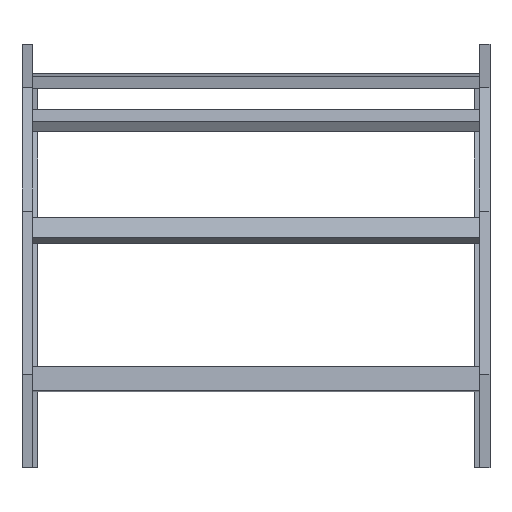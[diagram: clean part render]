
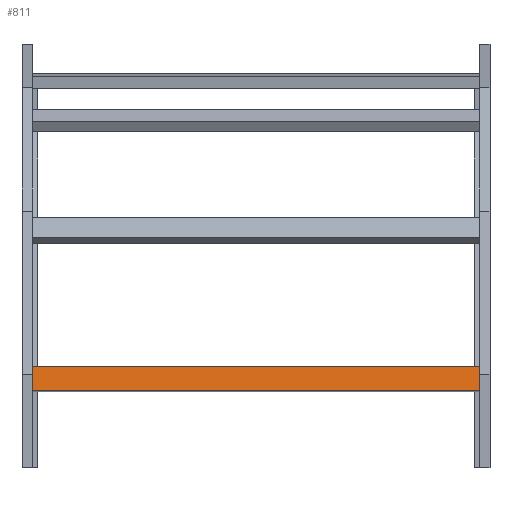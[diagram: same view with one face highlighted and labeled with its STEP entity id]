
A CAD part, top view. The second image highlights one B-rep face of the part: STEP entity #811.
In plain terms, the highlighted planar face has unit normal (0, 0.131, 0.991) as drawn and (0, 1, 0) by its records, which use the part's own axes.
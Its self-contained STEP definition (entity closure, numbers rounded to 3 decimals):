
#33 = CARTESIAN_POINT ( 'NONE',  ( 398., 20., 20.25 ) ) ;
#164 = ORIENTED_EDGE ( 'NONE', *, *, #1043, .T. ) ;
#193 = LINE ( 'NONE', #750, #1224 ) ;
#219 = FACE_OUTER_BOUND ( 'NONE', #696, .T. ) ;
#230 = CARTESIAN_POINT ( 'NONE',  ( 398., 20., 20.25 ) ) ;
#257 = CARTESIAN_POINT ( 'NONE',  ( -398., 20., -20.25 ) ) ;
#304 = EDGE_CURVE ( 'NONE', #1301, #1883, #193, .T. ) ;
#419 = LINE ( 'NONE', #1311, #884 ) ;
#509 = EDGE_CURVE ( 'NONE', #831, #1883, #419, .T. ) ;
#555 = VECTOR ( 'NONE', #1496, 1000. ) ;
#606 = CARTESIAN_POINT ( 'NONE',  ( -398., 20., 20.25 ) ) ;
#689 = CARTESIAN_POINT ( 'NONE',  ( 398., 20., 20.25 ) ) ;
#696 = EDGE_LOOP ( 'NONE', ( #1816, #1316, #1408, #164 ) ) ;
#750 = CARTESIAN_POINT ( 'NONE',  ( -398., 20., 20.25 ) ) ;
#781 = CARTESIAN_POINT ( 'NONE',  ( 398., 20., -20.25 ) ) ;
#802 = DIRECTION ( 'NONE',  ( 0., -1., 0. ) ) ;
#811 = ADVANCED_FACE ( 'NONE', ( #219 ), #1082, .F. ) ;
#831 = VERTEX_POINT ( 'NONE', #230 ) ;
#884 = VECTOR ( 'NONE', #1460, 1000. ) ;
#988 = CARTESIAN_POINT ( 'NONE',  ( 398., 20., -20.25 ) ) ;
#1043 = EDGE_CURVE ( 'NONE', #1232, #1301, #1080, .T. ) ;
#1080 = LINE ( 'NONE', #781, #1645 ) ;
#1082 = PLANE ( 'NONE',  #1823 ) ;
#1206 = DIRECTION ( 'NONE',  ( 0., 0., 1. ) ) ;
#1224 = VECTOR ( 'NONE', #1206, 1000. ) ;
#1232 = VERTEX_POINT ( 'NONE', #988 ) ;
#1250 = DIRECTION ( 'NONE',  ( 0., 0., -1. ) ) ;
#1301 = VERTEX_POINT ( 'NONE', #257 ) ;
#1311 = CARTESIAN_POINT ( 'NONE',  ( 398., 20., 20.25 ) ) ;
#1316 = ORIENTED_EDGE ( 'NONE', *, *, #509, .F. ) ;
#1357 = DIRECTION ( 'NONE',  ( -1., 0., 0. ) ) ;
#1408 = ORIENTED_EDGE ( 'NONE', *, *, #1884, .F. ) ;
#1460 = DIRECTION ( 'NONE',  ( -1., 0., 0. ) ) ;
#1496 = DIRECTION ( 'NONE',  ( 0., 0., 1. ) ) ;
#1639 = LINE ( 'NONE', #33, #555 ) ;
#1645 = VECTOR ( 'NONE', #1357, 1000. ) ;
#1816 = ORIENTED_EDGE ( 'NONE', *, *, #304, .T. ) ;
#1823 = AXIS2_PLACEMENT_3D ( 'NONE', #689, #802, #1250 ) ;
#1883 = VERTEX_POINT ( 'NONE', #606 ) ;
#1884 = EDGE_CURVE ( 'NONE', #1232, #831, #1639, .T. ) ;
